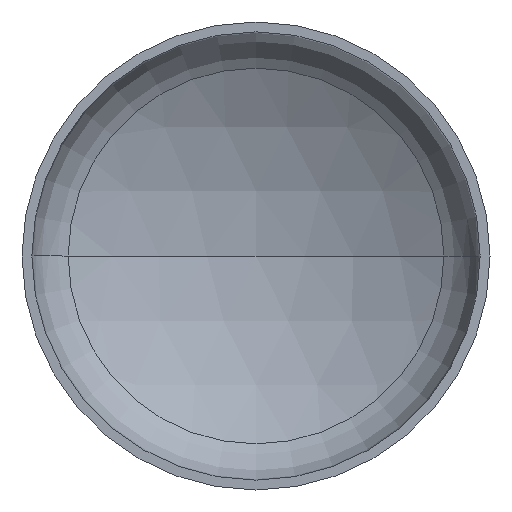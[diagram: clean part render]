
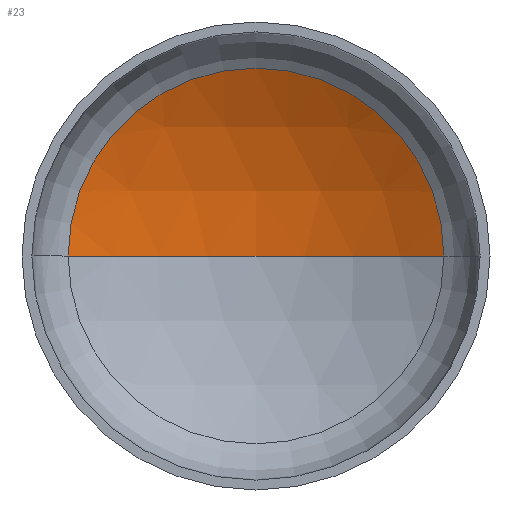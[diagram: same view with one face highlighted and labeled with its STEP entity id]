
A CAD part, front view. The second image highlights one B-rep face of the part: STEP entity #23.
In plain terms, the highlighted spherical face has radius 720 mm.
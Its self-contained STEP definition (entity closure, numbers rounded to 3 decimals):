
#5 = AXIS2_PLACEMENT_3D ( 'NONE', #164, #281, #198 ) ;
#7 = AXIS2_PLACEMENT_3D ( 'NONE', #40, #367, #180 ) ;
#23 = ADVANCED_FACE ( 'NONE', ( #162 ), #271, .F. ) ;
#24 = EDGE_LOOP ( 'NONE', ( #56, #340, #36 ) ) ;
#30 = CIRCLE ( 'NONE', #35, 361.241 ) ;
#35 = AXIS2_PLACEMENT_3D ( 'NONE', #264, #193, #212 ) ;
#36 = ORIENTED_EDGE ( 'NONE', *, *, #149, .T. ) ;
#40 = CARTESIAN_POINT ( 'NONE',  ( 0., -441.716, 0. ) ) ;
#56 = ORIENTED_EDGE ( 'NONE', *, *, #347, .F. ) ;
#62 = AXIS2_PLACEMENT_3D ( 'NONE', #296, #257, #298 ) ;
#70 = VERTEX_POINT ( 'NONE', #251 ) ;
#116 = VERTEX_POINT ( 'NONE', #222 ) ;
#121 = VERTEX_POINT ( 'NONE', #217 ) ;
#149 = EDGE_CURVE ( 'NONE', #121, #70, #30, .T. ) ;
#162 = FACE_OUTER_BOUND ( 'NONE', #24, .T. ) ;
#164 = CARTESIAN_POINT ( 'NONE',  ( 0., -441.716, 0. ) ) ;
#180 = DIRECTION ( 'NONE',  ( -1., 0., 0. ) ) ;
#193 = DIRECTION ( 'NONE',  ( 0., -1., 0. ) ) ;
#198 = DIRECTION ( 'NONE',  ( 1., 0., 0. ) ) ;
#212 = DIRECTION ( 'NONE',  ( 1., 0., 0. ) ) ;
#217 = CARTESIAN_POINT ( 'NONE',  ( 361.241, 181.104, 0. ) ) ;
#222 = CARTESIAN_POINT ( 'NONE',  ( 0., 278.284, 0. ) ) ;
#251 = CARTESIAN_POINT ( 'NONE',  ( -361.241, 181.104, 0. ) ) ;
#257 = DIRECTION ( 'NONE',  ( 0., 0., -1. ) ) ;
#264 = CARTESIAN_POINT ( 'NONE',  ( 0., 181.104, 0. ) ) ;
#271 = SPHERICAL_SURFACE ( 'NONE', #62, 720. ) ;
#274 = CIRCLE ( 'NONE', #5, 720. ) ;
#281 = DIRECTION ( 'NONE',  ( 0., 0., 1. ) ) ;
#296 = CARTESIAN_POINT ( 'NONE',  ( 0., -441.716, 0. ) ) ;
#298 = DIRECTION ( 'NONE',  ( -1., 0., 0. ) ) ;
#340 = ORIENTED_EDGE ( 'NONE', *, *, #344, .T. ) ;
#344 = EDGE_CURVE ( 'NONE', #116, #121, #397, .T. ) ;
#347 = EDGE_CURVE ( 'NONE', #116, #70, #274, .T. ) ;
#367 = DIRECTION ( 'NONE',  ( 0., 0., -1. ) ) ;
#397 = CIRCLE ( 'NONE', #7, 720. ) ;
